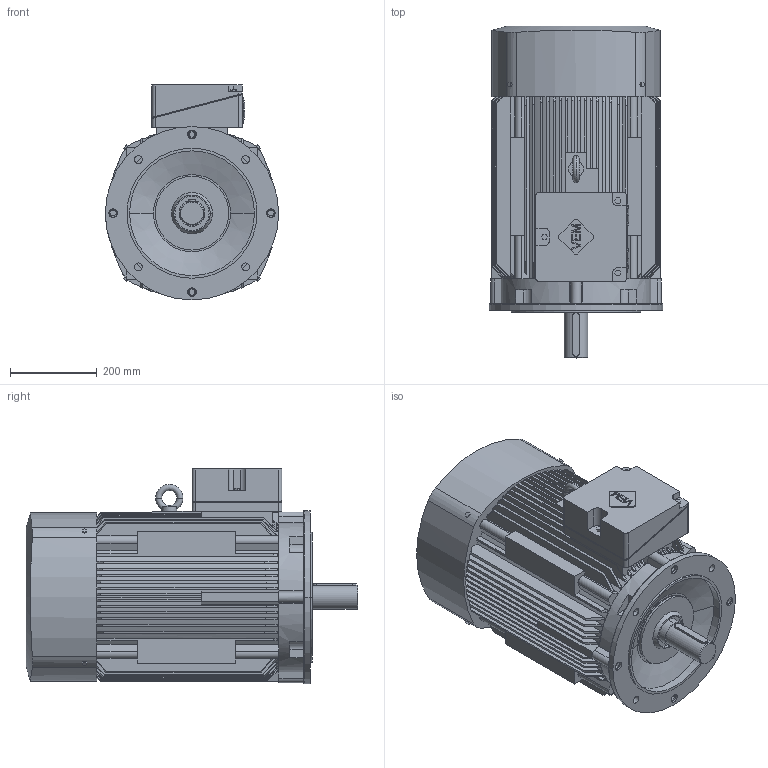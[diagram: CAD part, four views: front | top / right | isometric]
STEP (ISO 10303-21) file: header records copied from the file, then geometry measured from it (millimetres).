
FILE_DESCRIPTION(('no description'),'unknown implementation level');
FILE_NAME('te35ccf0220f449c59a474d89a1f23851.stp',' ',('VEM motors GmbH'),('CADClick - KiM GmbH - www.kimweb.de'),'unknown preprocess','ACIS','unknown authorization');
FILE_SCHEMA(('automotive_design'));
Length unit declared in the file: millimetre
Products named in the file (5): 1; 2; 3; 4; 5
Bounding box: 400 x 766 x 498 mm (x, y, z)
Volume: 76070203.3 mm3; surface area: 2445971.8 mm2
Topology: 5 solids, 5 shells, 744 faces, 2069 edges, 1367 vertices
Faces by surface type: plane 422, cylinder 182, cone 118, torus 18, bspline 4
Entity records: 50916 total; most frequent: CARTESIAN_POINT 9069, STYLED_ITEM 4185, PRESENTATION_STYLE_ASSIGNMENT 4185, COLOUR_RGB 4185, ORIENTED_EDGE 4138, DIRECTION 3682, EDGE_CURVE 2069, CURVE_STYLE 2069
